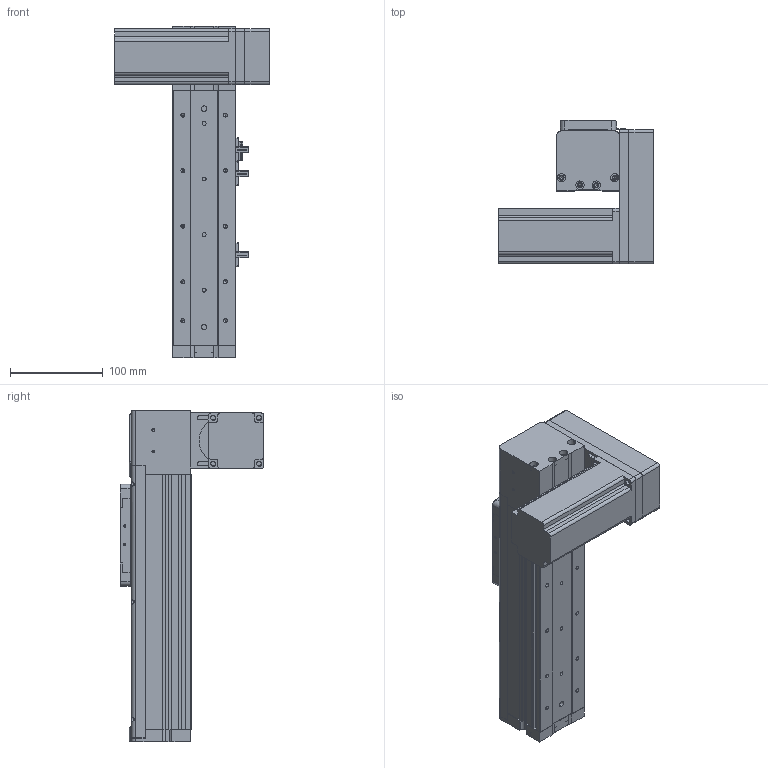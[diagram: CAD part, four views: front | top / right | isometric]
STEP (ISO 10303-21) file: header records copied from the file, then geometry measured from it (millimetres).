
FILE_DESCRIPTION (( 'STEP AP214' ), '1' );
FILE_NAME ('KSD68BS-S100-MLD-CR.STEP', '2019-08-27T03:23:16', ( '微软用户' ), ( '微软中国' ), 'SwSTEP 2.0', 'SolidWorks 2014', '' );
FILE_SCHEMA (( 'AUTOMOTIVE_DESIGN' ));
Length unit declared in the file: millimetre
Products named in the file (14): KSD68BS 100行程盖板全封闭; 68宽单导轨全封闭丝杆传动安装板1防护罩; 68遵裔啣揤啣1; KSD68BS 100行程侧板全封闭; 68宽单导轨全封闭同步带端板; 68单导轨全封闭同步带电机座左; 68单导轨全封闭同步带安装板; 悵誘欶奻狟殏; 68宽马达安装板连板上折同步带; 感应片68宽全封闭; U倰嫖萇EEㄜSX672; 台达ECMA－C20604AS伺服电机（400W); KSD68BS 100行程底板全封闭; KSD68BS-S100-MLD-CR
Assembly tree (17 placements, depth 2):
  KSD68BS-S100-MLD-CR
    KSD68BS 100行程底板全封闭
    台达ECMA－C20604AS伺服电机（400W)
    U倰嫖萇EEㄜSX672  x3
    感应片68宽全封闭
    68宽马达安装板连板上折同步带
    悵誘欶奻狟殏
    68单导轨全封闭同步带安装板
    68单导轨全封闭同步带电机座左
    68宽单导轨全封闭同步带端板
    KSD68BS 100行程侧板全封闭  x2
    68宽单导轨全封闭丝杆传动安装板1防护罩
    68遵裔啣揤啣1  x2
    KSD68BS 100行程盖板全封闭
Bounding box: 167.2 x 155.5 x 358.1 mm (x, y, z)
Volume: 1323588.2 mm3; surface area: 400133.3 mm2
Topology: 18 solids, 18 shells, 1363 faces, 3829 edges, 2464 vertices
Faces by surface type: plane 621, cylinder 610, cone 132
Entity records: 42015 total; most frequent: CARTESIAN_POINT 7091, DIRECTION 6360, ORIENTED_EDGE 6102, EDGE_CURVE 3051, AXIS2_PLACEMENT_3D 2257, VERTEX_POINT 2002, LINE 1846, VECTOR 1846
